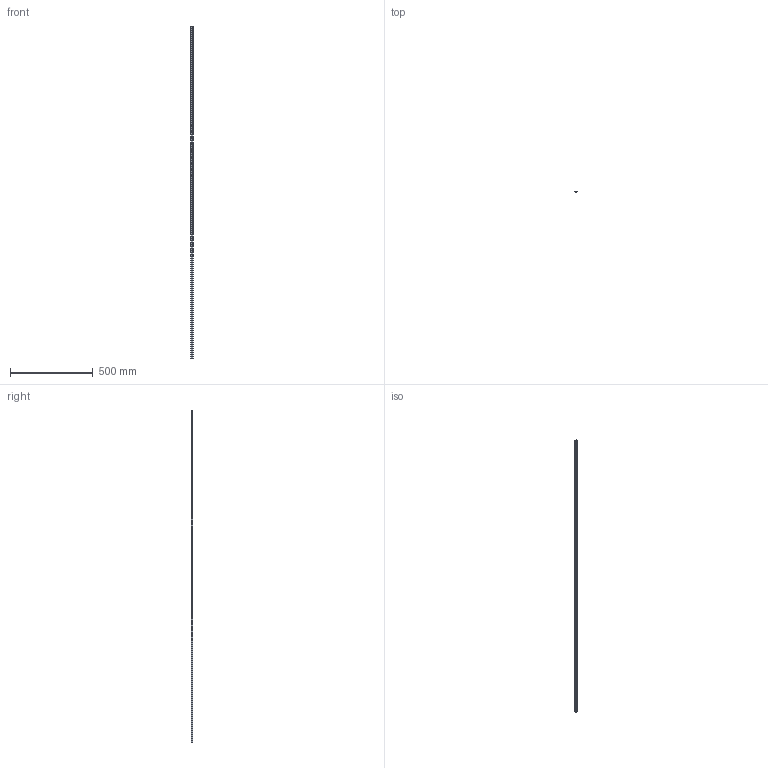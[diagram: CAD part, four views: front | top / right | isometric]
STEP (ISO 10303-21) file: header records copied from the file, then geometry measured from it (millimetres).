
FILE_DESCRIPTION (( 'STEP AP203' ), '1' );
FILE_NAME ('ChannelLine_i2_24.STEP', '2024-11-29T06:23:00', ( '' ), ( '' ), 'SwSTEP 2.0', 'SolidWorks 2023', '' );
FILE_SCHEMA (( 'CONFIG_CONTROL_DESIGN' ));
Length unit declared in the file: millimetre
Products named in the file (3): 2569501_2000 alu; 2584901_25.849.02 - L=2000mm; ChannelLine_i2_24
Assembly tree (2 placements, depth 2):
  ChannelLine_i2_24
    2569501_2000 alu
    2584901_25.849.02 - L=2000mm
Bounding box: 13 x 8 x 2000 mm (x, y, z)
Volume: 85471.4 mm3; surface area: 169429.4 mm2
Topology: 2 solids, 2 shells, 112 faces, 324 edges, 216 vertices
Faces by surface type: cylinder 62, plane 50
Entity records: 4037 total; most frequent: DIRECTION 682, CARTESIAN_POINT 657, ORIENTED_EDGE 648, EDGE_CURVE 324, AXIS2_PLACEMENT_3D 241, VERTEX_POINT 216, LINE 200, VECTOR 200
